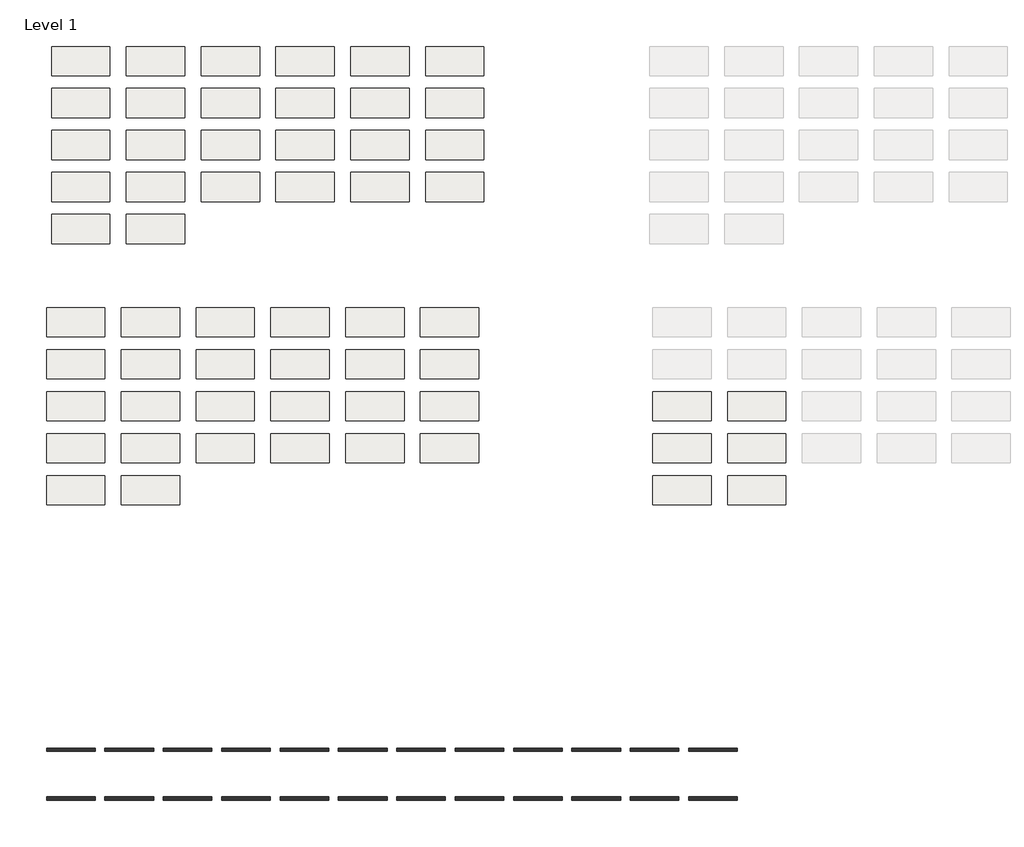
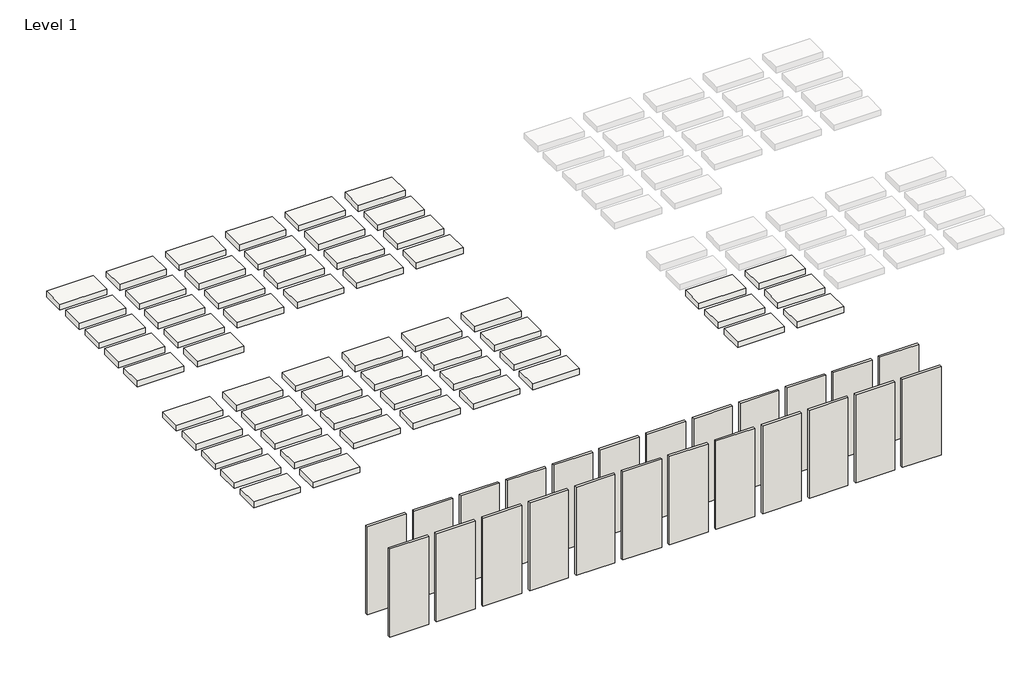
# One storey, part 1 of 3: 58 slabs, 24 walls.
"""IFC4 building model written with IfcOpenShell, lengths in millimetres."""

from ifc_helpers import new_model, si_unit, frame, origin, origin_with_axes, place, context, project, spatial, polyline, outline, extrude, element, save

model = new_model("IFC4")

# Units and contexts
model_context = context("Model", 3, world=origin())
ifc_project = project(units=[si_unit("LENGTHUNIT", "METRE", prefix="MILLI")], contexts=[model_context])

# Site, building, storey
site = spatial("IfcSite", under=ifc_project)
building = spatial("IfcBuilding", under=site)
storey = spatial("IfcBuildingStorey", under=building, Name="Level 1", Elevation=0.0)

# Slabs
placement = place(None, origin())
element("IfcSlab", 1, ObjectType="AEP Span Color Sample", at=placement, inside=storey, context=model_context, shape_type="SweptSolid", body=[
    extrude(outline(polyline([(-4307.8660775, 7212.0976846), (-4917.4660775, 7212.0976846), (-4917.4660775, 7516.8976846), (-4307.8660775, 7516.8976846), (-4307.8660775, 7212.0976846)])), frame((0.0, 0.0, -79.375), z_axis=(0.0, 0.0, 1.0), x_axis=(1.0, 0.0, 0.0)), (0.0, 0.0, 1.0), 79.375),
])
element("IfcSlab", 2, ObjectType="AEP Span Color Sample", at=placement, inside=storey, context=model_context, shape_type="SweptSolid", body=[
    extrude(outline(polyline([(-3526.8160775, 7212.0976846), (-4136.4160775, 7212.0976846), (-4136.4160775, 7516.8976846), (-3526.8160775, 7516.8976846), (-3526.8160775, 7212.0976846)])), frame((0.0, 0.0, -79.375), z_axis=(0.0, 0.0, 1.0), x_axis=(1.0, 0.0, 0.0)), (0.0, 0.0, 1.0), 79.375),
])
element("IfcSlab", 3, ObjectType="AEP Span Color Sample", at=placement, inside=storey, context=model_context, shape_type="SweptSolid", body=[
    extrude(outline(polyline([(-2745.7660775, 7212.0976846), (-3355.3660775, 7212.0976846), (-3355.3660775, 7516.8976846), (-2745.7660775, 7516.8976846), (-2745.7660775, 7212.0976846)])), frame((0.0, 0.0, -79.375), z_axis=(0.0, 0.0, 1.0), x_axis=(1.0, 0.0, 0.0)), (0.0, 0.0, 1.0), 79.375),
])
element("IfcSlab", 4, ObjectType="AEP Span Color Sample", at=placement, inside=storey, context=model_context, shape_type="SweptSolid", body=[
    extrude(outline(polyline([(-1964.7160775, 7212.0976846), (-2574.3160775, 7212.0976846), (-2574.3160775, 7516.8976846), (-1964.7160775, 7516.8976846), (-1964.7160775, 7212.0976846)])), frame((0.0, 0.0, -79.375), z_axis=(0.0, 0.0, 1.0), x_axis=(1.0, 0.0, 0.0)), (0.0, 0.0, 1.0), 79.375),
])
element("IfcSlab", 5, ObjectType="AEP Span Color Sample", at=placement, inside=storey, context=model_context, shape_type="SweptSolid", body=[
    extrude(outline(polyline([(-1183.6660775, 7212.0976846), (-1793.2660775, 7212.0976846), (-1793.2660775, 7516.8976846), (-1183.6660775, 7516.8976846), (-1183.6660775, 7212.0976846)])), frame((0.0, 0.0, -79.375), z_axis=(0.0, 0.0, 1.0), x_axis=(1.0, 0.0, 0.0)), (0.0, 0.0, 1.0), 79.375),
])
element("IfcSlab", 6, ObjectType="AEP Span Color Sample", at=placement, inside=storey, context=model_context, shape_type="SweptSolid", body=[
    extrude(outline(polyline([(-402.6160775, 7212.0976846), (-1012.2160775, 7212.0976846), (-1012.2160775, 7516.8976846), (-402.6160775, 7516.8976846), (-402.6160775, 7212.0976846)])), frame((0.0, 0.0, -79.375), z_axis=(0.0, 0.0, 1.0), x_axis=(1.0, 0.0, 0.0)), (0.0, 0.0, 1.0), 79.375),
])
element("IfcSlab", 7, ObjectType="AEP Span Color Sample", at=placement, inside=storey, context=model_context, shape_type="SweptSolid", body=[
    extrude(outline(polyline([(-4307.8660775, 6773.9476846), (-4917.4660775, 6773.9476846), (-4917.4660775, 7078.7476846), (-4307.8660775, 7078.7476846), (-4307.8660775, 6773.9476846)])), frame((0.0, 0.0, -79.375), z_axis=(0.0, 0.0, 1.0), x_axis=(1.0, 0.0, 0.0)), (0.0, 0.0, 1.0), 79.375),
])
element("IfcSlab", 8, ObjectType="AEP Span Color Sample", at=placement, inside=storey, context=model_context, shape_type="SweptSolid", body=[
    extrude(outline(polyline([(-3526.8160775, 6773.9476846), (-4136.4160775, 6773.9476846), (-4136.4160775, 7078.7476846), (-3526.8160775, 7078.7476846), (-3526.8160775, 6773.9476846)])), frame((0.0, 0.0, -79.375), z_axis=(0.0, 0.0, 1.0), x_axis=(1.0, 0.0, 0.0)), (0.0, 0.0, 1.0), 79.375),
])
element("IfcSlab", 9, ObjectType="AEP Span Color Sample", at=placement, inside=storey, context=model_context, shape_type="SweptSolid", body=[
    extrude(outline(polyline([(-2745.7660775, 6773.9476846), (-3355.3660775, 6773.9476846), (-3355.3660775, 7078.7476846), (-2745.7660775, 7078.7476846), (-2745.7660775, 6773.9476846)])), frame((0.0, 0.0, -79.375), z_axis=(0.0, 0.0, 1.0), x_axis=(1.0, 0.0, 0.0)), (0.0, 0.0, 1.0), 79.375),
])
element("IfcSlab", 10, ObjectType="AEP Span Color Sample", at=placement, inside=storey, context=model_context, shape_type="SweptSolid", body=[
    extrude(outline(polyline([(-1964.7160775, 6773.9476846), (-2574.3160775, 6773.9476846), (-2574.3160775, 7078.7476846), (-1964.7160775, 7078.7476846), (-1964.7160775, 6773.9476846)])), frame((0.0, 0.0, -79.375), z_axis=(0.0, 0.0, 1.0), x_axis=(1.0, 0.0, 0.0)), (0.0, 0.0, 1.0), 79.375),
])
element("IfcSlab", 11, ObjectType="AEP Span Color Sample", at=placement, inside=storey, context=model_context, shape_type="SweptSolid", body=[
    extrude(outline(polyline([(-1183.6660775, 6773.9476846), (-1793.2660775, 6773.9476846), (-1793.2660775, 7078.7476846), (-1183.6660775, 7078.7476846), (-1183.6660775, 6773.9476846)])), frame((0.0, 0.0, -79.375), z_axis=(0.0, 0.0, 1.0), x_axis=(1.0, 0.0, 0.0)), (0.0, 0.0, 1.0), 79.375),
])
element("IfcSlab", 12, ObjectType="AEP Span Color Sample", at=placement, inside=storey, context=model_context, shape_type="SweptSolid", body=[
    extrude(outline(polyline([(-402.6160775, 6773.9476846), (-1012.2160775, 6773.9476846), (-1012.2160775, 7078.7476846), (-402.6160775, 7078.7476846), (-402.6160775, 6773.9476846)])), frame((0.0, 0.0, -79.375), z_axis=(0.0, 0.0, 1.0), x_axis=(1.0, 0.0, 0.0)), (0.0, 0.0, 1.0), 79.375),
])
element("IfcSlab", 13, ObjectType="AEP Span Color Sample", at=placement, inside=storey, context=model_context, shape_type="SweptSolid", body=[
    extrude(outline(polyline([(-4307.8660775, 6335.7976846), (-4917.4660775, 6335.7976846), (-4917.4660775, 6640.5976846), (-4307.8660775, 6640.5976846), (-4307.8660775, 6335.7976846)])), frame((0.0, 0.0, -79.375), z_axis=(0.0, 0.0, 1.0), x_axis=(1.0, 0.0, 0.0)), (0.0, 0.0, 1.0), 79.375),
])
element("IfcSlab", 14, ObjectType="AEP Span Color Sample", at=placement, inside=storey, context=model_context, shape_type="SweptSolid", body=[
    extrude(outline(polyline([(-3526.8160775, 6335.7976846), (-4136.4160775, 6335.7976846), (-4136.4160775, 6640.5976846), (-3526.8160775, 6640.5976846), (-3526.8160775, 6335.7976846)])), frame((0.0, 0.0, -79.375), z_axis=(0.0, 0.0, 1.0), x_axis=(1.0, 0.0, 0.0)), (0.0, 0.0, 1.0), 79.375),
])
element("IfcSlab", 15, ObjectType="AEP Span Color Sample", at=placement, inside=storey, context=model_context, shape_type="SweptSolid", body=[
    extrude(outline(polyline([(-2745.7660775, 6335.7976846), (-3355.3660775, 6335.7976846), (-3355.3660775, 6640.5976846), (-2745.7660775, 6640.5976846), (-2745.7660775, 6335.7976846)])), frame((0.0, 0.0, -79.375), z_axis=(0.0, 0.0, 1.0), x_axis=(1.0, 0.0, 0.0)), (0.0, 0.0, 1.0), 79.375),
])
element("IfcSlab", 16, ObjectType="AEP Span Color Sample", at=placement, inside=storey, context=model_context, shape_type="SweptSolid", body=[
    extrude(outline(polyline([(-1964.7160775, 6335.7976846), (-2574.3160775, 6335.7976846), (-2574.3160775, 6640.5976846), (-1964.7160775, 6640.5976846), (-1964.7160775, 6335.7976846)])), frame((0.0, 0.0, -79.375), z_axis=(0.0, 0.0, 1.0), x_axis=(1.0, 0.0, 0.0)), (0.0, 0.0, 1.0), 79.375),
])
element("IfcSlab", 17, ObjectType="AEP Span Color Sample", at=placement, inside=storey, context=model_context, shape_type="SweptSolid", body=[
    extrude(outline(polyline([(-1183.6660775, 6335.7976846), (-1793.2660775, 6335.7976846), (-1793.2660775, 6640.5976846), (-1183.6660775, 6640.5976846), (-1183.6660775, 6335.7976846)])), frame((0.0, 0.0, -79.375), z_axis=(0.0, 0.0, 1.0), x_axis=(1.0, 0.0, 0.0)), (0.0, 0.0, 1.0), 79.375),
])
element("IfcSlab", 18, ObjectType="AEP Span Color Sample", at=placement, inside=storey, context=model_context, shape_type="SweptSolid", body=[
    extrude(outline(polyline([(-402.6160775, 6335.7976846), (-1012.2160775, 6335.7976846), (-1012.2160775, 6640.5976846), (-402.6160775, 6640.5976846), (-402.6160775, 6335.7976846)])), frame((0.0, 0.0, -79.375), z_axis=(0.0, 0.0, 1.0), x_axis=(1.0, 0.0, 0.0)), (0.0, 0.0, 1.0), 79.375),
])
element("IfcSlab", 19, ObjectType="AEP Span Color Sample", at=placement, inside=storey, context=model_context, shape_type="SweptSolid", body=[
    extrude(outline(polyline([(-4307.8660775, 5897.6476846), (-4917.4660775, 5897.6476846), (-4917.4660775, 6202.4476846), (-4307.8660775, 6202.4476846), (-4307.8660775, 5897.6476846)])), frame((0.0, 0.0, -79.375), z_axis=(0.0, 0.0, 1.0), x_axis=(1.0, 0.0, 0.0)), (0.0, 0.0, 1.0), 79.375),
])
element("IfcSlab", 20, ObjectType="AEP Span Color Sample", at=placement, inside=storey, context=model_context, shape_type="SweptSolid", body=[
    extrude(outline(polyline([(-3526.8160775, 5897.6476846), (-4136.4160775, 5897.6476846), (-4136.4160775, 6202.4476846), (-3526.8160775, 6202.4476846), (-3526.8160775, 5897.6476846)])), frame((0.0, 0.0, -79.375), z_axis=(0.0, 0.0, 1.0), x_axis=(1.0, 0.0, 0.0)), (0.0, 0.0, 1.0), 79.375),
])
element("IfcSlab", 21, ObjectType="AEP Span Color Sample", at=placement, inside=storey, context=model_context, shape_type="SweptSolid", body=[
    extrude(outline(polyline([(-2745.7660775, 5897.6476846), (-3355.3660775, 5897.6476846), (-3355.3660775, 6202.4476846), (-2745.7660775, 6202.4476846), (-2745.7660775, 5897.6476846)])), frame((0.0, 0.0, -79.375), z_axis=(0.0, 0.0, 1.0), x_axis=(1.0, 0.0, 0.0)), (0.0, 0.0, 1.0), 79.375),
])
element("IfcSlab", 22, ObjectType="AEP Span Color Sample", at=placement, inside=storey, context=model_context, shape_type="SweptSolid", body=[
    extrude(outline(polyline([(-1964.7160775, 5897.6476846), (-2574.3160775, 5897.6476846), (-2574.3160775, 6202.4476846), (-1964.7160775, 6202.4476846), (-1964.7160775, 5897.6476846)])), frame((0.0, 0.0, -79.375), z_axis=(0.0, 0.0, 1.0), x_axis=(1.0, 0.0, 0.0)), (0.0, 0.0, 1.0), 79.375),
])
element("IfcSlab", 23, ObjectType="AEP Span Color Sample", at=placement, inside=storey, context=model_context, shape_type="SweptSolid", body=[
    extrude(outline(polyline([(-1183.6660775, 5897.6476846), (-1793.2660775, 5897.6476846), (-1793.2660775, 6202.4476846), (-1183.6660775, 6202.4476846), (-1183.6660775, 5897.6476846)])), frame((0.0, 0.0, -79.375), z_axis=(0.0, 0.0, 1.0), x_axis=(1.0, 0.0, 0.0)), (0.0, 0.0, 1.0), 79.375),
])
element("IfcSlab", 24, ObjectType="AEP Span Color Sample", at=placement, inside=storey, context=model_context, shape_type="SweptSolid", body=[
    extrude(outline(polyline([(-402.6160775, 5897.6476846), (-1012.2160775, 5897.6476846), (-1012.2160775, 6202.4476846), (-402.6160775, 6202.4476846), (-402.6160775, 5897.6476846)])), frame((0.0, 0.0, -79.375), z_axis=(0.0, 0.0, 1.0), x_axis=(1.0, 0.0, 0.0)), (0.0, 0.0, 1.0), 79.375),
])
element("IfcSlab", 25, ObjectType="AEP Span Color Sample", at=placement, inside=storey, context=model_context, shape_type="SweptSolid", body=[
    extrude(outline(polyline([(-4307.8660775, 5459.4976846), (-4917.4660775, 5459.4976846), (-4917.4660775, 5764.2976846), (-4307.8660775, 5764.2976846), (-4307.8660775, 5459.4976846)])), frame((0.0, 0.0, -79.375), z_axis=(0.0, 0.0, 1.0), x_axis=(1.0, 0.0, 0.0)), (0.0, 0.0, 1.0), 79.375),
])
element("IfcSlab", 26, ObjectType="AEP Span Color Sample", at=placement, inside=storey, context=model_context, shape_type="SweptSolid", body=[
    extrude(outline(polyline([(-3526.8160775, 5459.4976846), (-4136.4160775, 5459.4976846), (-4136.4160775, 5764.2976846), (-3526.8160775, 5764.2976846), (-3526.8160775, 5459.4976846)])), frame((0.0, 0.0, -79.375), z_axis=(0.0, 0.0, 1.0), x_axis=(1.0, 0.0, 0.0)), (0.0, 0.0, 1.0), 79.375),
])
element("IfcSlab", 27, ObjectType="AEP Span Color Sample", at=placement, inside=storey, context=model_context, shape_type="SweptSolid", body=[
    extrude(outline(polyline([(1970.7268399, 3607.4993148), (1361.1268399, 3607.4993148), (1361.1268399, 3912.2993148), (1970.7268399, 3912.2993148), (1970.7268399, 3607.4993148)])), frame((0.0, 0.0, -79.375), z_axis=(0.0, 0.0, 1.0), x_axis=(1.0, 0.0, 0.0)), (0.0, 0.0, 1.0), 79.375),
])
element("IfcSlab", 28, ObjectType="AEP Span Color Sample", at=placement, inside=storey, context=model_context, shape_type="SweptSolid", body=[
    extrude(outline(polyline([(2751.7768399, 3607.4993148), (2142.1768399, 3607.4993148), (2142.1768399, 3912.2993148), (2751.7768399, 3912.2993148), (2751.7768399, 3607.4993148)])), frame((0.0, 0.0, -79.375), z_axis=(0.0, 0.0, 1.0), x_axis=(1.0, 0.0, 0.0)), (0.0, 0.0, 1.0), 79.375),
])
element("IfcSlab", 29, ObjectType="AEP Span Color Sample", at=placement, inside=storey, context=model_context, shape_type="SweptSolid", body=[
    extrude(outline(polyline([(1970.7268399, 3169.3493148), (1361.1268399, 3169.3493148), (1361.1268399, 3474.1493148), (1970.7268399, 3474.1493148), (1970.7268399, 3169.3493148)])), frame((0.0, 0.0, -79.375), z_axis=(0.0, 0.0, 1.0), x_axis=(1.0, 0.0, 0.0)), (0.0, 0.0, 1.0), 79.375),
])
element("IfcSlab", 30, ObjectType="AEP Span Color Sample", at=placement, inside=storey, context=model_context, shape_type="SweptSolid", body=[
    extrude(outline(polyline([(2751.7768399, 3169.3493148), (2142.1768399, 3169.3493148), (2142.1768399, 3474.1493148), (2751.7768399, 3474.1493148), (2751.7768399, 3169.3493148)])), frame((0.0, 0.0, -79.375), z_axis=(0.0, 0.0, 1.0), x_axis=(1.0, 0.0, 0.0)), (0.0, 0.0, 1.0), 79.375),
])
element("IfcSlab", 31, ObjectType="AEP Span Color Sample", at=placement, inside=storey, context=model_context, shape_type="SweptSolid", body=[
    extrude(outline(polyline([(1970.7268399, 2731.1993148), (1361.1268399, 2731.1993148), (1361.1268399, 3035.9993148), (1970.7268399, 3035.9993148), (1970.7268399, 2731.1993148)])), frame((0.0, 0.0, -79.375), z_axis=(0.0, 0.0, 1.0), x_axis=(1.0, 0.0, 0.0)), (0.0, 0.0, 1.0), 79.375),
])
element("IfcSlab", 32, ObjectType="AEP Span Color Sample", at=placement, inside=storey, context=model_context, shape_type="SweptSolid", body=[
    extrude(outline(polyline([(2751.7768399, 2731.1993148), (2142.1768399, 2731.1993148), (2142.1768399, 3035.9993148), (2751.7768399, 3035.9993148), (2751.7768399, 2731.1993148)])), frame((0.0, 0.0, -79.375), z_axis=(0.0, 0.0, 1.0), x_axis=(1.0, 0.0, 0.0)), (0.0, 0.0, 1.0), 79.375),
])
element("IfcSlab", 33, ObjectType="AEP Span Color Sample", at=placement, inside=storey, context=model_context, shape_type="SweptSolid", body=[
    extrude(outline(polyline([(-4360.627236, 4483.7993148), (-4970.227236, 4483.7993148), (-4970.227236, 4788.5993148), (-4360.627236, 4788.5993148), (-4360.627236, 4483.7993148)])), frame((0.0, 0.0, -79.375), z_axis=(0.0, 0.0, 1.0), x_axis=(1.0, 0.0, 0.0)), (0.0, 0.0, 1.0), 79.375),
])
element("IfcSlab", 34, ObjectType="AEP Span Color Sample", at=placement, inside=storey, context=model_context, shape_type="SweptSolid", body=[
    extrude(outline(polyline([(-3579.577236, 4483.7993148), (-4189.177236, 4483.7993148), (-4189.177236, 4788.5993148), (-3579.577236, 4788.5993148), (-3579.577236, 4483.7993148)])), frame((0.0, 0.0, -79.375), z_axis=(0.0, 0.0, 1.0), x_axis=(1.0, 0.0, 0.0)), (0.0, 0.0, 1.0), 79.375),
])
element("IfcSlab", 35, ObjectType="AEP Span Color Sample", at=placement, inside=storey, context=model_context, shape_type="SweptSolid", body=[
    extrude(outline(polyline([(-2798.527236, 4483.7993148), (-3408.127236, 4483.7993148), (-3408.127236, 4788.5993148), (-2798.527236, 4788.5993148), (-2798.527236, 4483.7993148)])), frame((0.0, 0.0, -79.375), z_axis=(0.0, 0.0, 1.0), x_axis=(1.0, 0.0, 0.0)), (0.0, 0.0, 1.0), 79.375),
])
element("IfcSlab", 36, ObjectType="AEP Span Color Sample", at=placement, inside=storey, context=model_context, shape_type="SweptSolid", body=[
    extrude(outline(polyline([(-2017.477236, 4483.7993148), (-2627.077236, 4483.7993148), (-2627.077236, 4788.5993148), (-2017.477236, 4788.5993148), (-2017.477236, 4483.7993148)])), frame((0.0, 0.0, -79.375), z_axis=(0.0, 0.0, 1.0), x_axis=(1.0, 0.0, 0.0)), (0.0, 0.0, 1.0), 79.375),
])
element("IfcSlab", 37, ObjectType="AEP Span Color Sample", at=placement, inside=storey, context=model_context, shape_type="SweptSolid", body=[
    extrude(outline(polyline([(-1236.427236, 4483.7993148), (-1846.027236, 4483.7993148), (-1846.027236, 4788.5993148), (-1236.427236, 4788.5993148), (-1236.427236, 4483.7993148)])), frame((0.0, 0.0, -79.375), z_axis=(0.0, 0.0, 1.0), x_axis=(1.0, 0.0, 0.0)), (0.0, 0.0, 1.0), 79.375),
])
element("IfcSlab", 38, ObjectType="AEP Span Color Sample", at=placement, inside=storey, context=model_context, shape_type="SweptSolid", body=[
    extrude(outline(polyline([(-455.377236, 4483.7993148), (-1064.977236, 4483.7993148), (-1064.977236, 4788.5993148), (-455.377236, 4788.5993148), (-455.377236, 4483.7993148)])), frame((0.0, 0.0, -79.375), z_axis=(0.0, 0.0, 1.0), x_axis=(1.0, 0.0, 0.0)), (0.0, 0.0, 1.0), 79.375),
])
element("IfcSlab", 39, ObjectType="AEP Span Color Sample", at=placement, inside=storey, context=model_context, shape_type="SweptSolid", body=[
    extrude(outline(polyline([(-4360.627236, 4045.6493148), (-4970.227236, 4045.6493148), (-4970.227236, 4350.4493148), (-4360.627236, 4350.4493148), (-4360.627236, 4045.6493148)])), frame((0.0, 0.0, -79.375), z_axis=(0.0, 0.0, 1.0), x_axis=(1.0, 0.0, 0.0)), (0.0, 0.0, 1.0), 79.375),
])
element("IfcSlab", 40, ObjectType="AEP Span Color Sample", at=placement, inside=storey, context=model_context, shape_type="SweptSolid", body=[
    extrude(outline(polyline([(-3579.577236, 4045.6493148), (-4189.177236, 4045.6493148), (-4189.177236, 4350.4493148), (-3579.577236, 4350.4493148), (-3579.577236, 4045.6493148)])), frame((0.0, 0.0, -79.375), z_axis=(0.0, 0.0, 1.0), x_axis=(1.0, 0.0, 0.0)), (0.0, 0.0, 1.0), 79.375),
])
element("IfcSlab", 41, ObjectType="AEP Span Color Sample", at=placement, inside=storey, context=model_context, shape_type="SweptSolid", body=[
    extrude(outline(polyline([(-2798.527236, 4045.6493148), (-3408.127236, 4045.6493148), (-3408.127236, 4350.4493148), (-2798.527236, 4350.4493148), (-2798.527236, 4045.6493148)])), frame((0.0, 0.0, -79.375), z_axis=(0.0, 0.0, 1.0), x_axis=(1.0, 0.0, 0.0)), (0.0, 0.0, 1.0), 79.375),
])
element("IfcSlab", 42, ObjectType="AEP Span Color Sample", at=placement, inside=storey, context=model_context, shape_type="SweptSolid", body=[
    extrude(outline(polyline([(-2017.477236, 4045.6493148), (-2627.077236, 4045.6493148), (-2627.077236, 4350.4493148), (-2017.477236, 4350.4493148), (-2017.477236, 4045.6493148)])), frame((0.0, 0.0, -79.375), z_axis=(0.0, 0.0, 1.0), x_axis=(1.0, 0.0, 0.0)), (0.0, 0.0, 1.0), 79.375),
])
element("IfcSlab", 43, ObjectType="AEP Span Color Sample", at=placement, inside=storey, context=model_context, shape_type="SweptSolid", body=[
    extrude(outline(polyline([(-1236.427236, 4045.6493148), (-1846.027236, 4045.6493148), (-1846.027236, 4350.4493148), (-1236.427236, 4350.4493148), (-1236.427236, 4045.6493148)])), frame((0.0, 0.0, -79.375), z_axis=(0.0, 0.0, 1.0), x_axis=(1.0, 0.0, 0.0)), (0.0, 0.0, 1.0), 79.375),
])
element("IfcSlab", 44, ObjectType="AEP Span Color Sample", at=placement, inside=storey, context=model_context, shape_type="SweptSolid", body=[
    extrude(outline(polyline([(-455.377236, 4045.6493148), (-1064.977236, 4045.6493148), (-1064.977236, 4350.4493148), (-455.377236, 4350.4493148), (-455.377236, 4045.6493148)])), frame((0.0, 0.0, -79.375), z_axis=(0.0, 0.0, 1.0), x_axis=(1.0, 0.0, 0.0)), (0.0, 0.0, 1.0), 79.375),
])
element("IfcSlab", 45, ObjectType="AEP Span Color Sample", at=placement, inside=storey, context=model_context, shape_type="SweptSolid", body=[
    extrude(outline(polyline([(-4360.627236, 3607.4993148), (-4970.227236, 3607.4993148), (-4970.227236, 3912.2993148), (-4360.627236, 3912.2993148), (-4360.627236, 3607.4993148)])), frame((0.0, 0.0, -79.375), z_axis=(0.0, 0.0, 1.0), x_axis=(1.0, 0.0, 0.0)), (0.0, 0.0, 1.0), 79.375),
])
element("IfcSlab", 46, ObjectType="AEP Span Color Sample", at=placement, inside=storey, context=model_context, shape_type="SweptSolid", body=[
    extrude(outline(polyline([(-3579.577236, 3607.4993148), (-4189.177236, 3607.4993148), (-4189.177236, 3912.2993148), (-3579.577236, 3912.2993148), (-3579.577236, 3607.4993148)])), frame((0.0, 0.0, -79.375), z_axis=(0.0, 0.0, 1.0), x_axis=(1.0, 0.0, 0.0)), (0.0, 0.0, 1.0), 79.375),
])
element("IfcSlab", 47, ObjectType="AEP Span Color Sample", at=placement, inside=storey, context=model_context, shape_type="SweptSolid", body=[
    extrude(outline(polyline([(-2798.527236, 3607.4993148), (-3408.127236, 3607.4993148), (-3408.127236, 3912.2993148), (-2798.527236, 3912.2993148), (-2798.527236, 3607.4993148)])), frame((0.0, 0.0, -79.375), z_axis=(0.0, 0.0, 1.0), x_axis=(1.0, 0.0, 0.0)), (0.0, 0.0, 1.0), 79.375),
])
element("IfcSlab", 48, ObjectType="AEP Span Color Sample", at=placement, inside=storey, context=model_context, shape_type="SweptSolid", body=[
    extrude(outline(polyline([(-2017.477236, 3607.4993148), (-2627.077236, 3607.4993148), (-2627.077236, 3912.2993148), (-2017.477236, 3912.2993148), (-2017.477236, 3607.4993148)])), frame((0.0, 0.0, -79.375), z_axis=(0.0, 0.0, 1.0), x_axis=(1.0, 0.0, 0.0)), (0.0, 0.0, 1.0), 79.375),
])
element("IfcSlab", 49, ObjectType="AEP Span Color Sample", at=placement, inside=storey, context=model_context, shape_type="SweptSolid", body=[
    extrude(outline(polyline([(-1236.427236, 3607.4993148), (-1846.027236, 3607.4993148), (-1846.027236, 3912.2993148), (-1236.427236, 3912.2993148), (-1236.427236, 3607.4993148)])), frame((0.0, 0.0, -79.375), z_axis=(0.0, 0.0, 1.0), x_axis=(1.0, 0.0, 0.0)), (0.0, 0.0, 1.0), 79.375),
])
element("IfcSlab", 50, ObjectType="AEP Span Color Sample", at=placement, inside=storey, context=model_context, shape_type="SweptSolid", body=[
    extrude(outline(polyline([(-455.377236, 3607.4993148), (-1064.977236, 3607.4993148), (-1064.977236, 3912.2993148), (-455.377236, 3912.2993148), (-455.377236, 3607.4993148)])), frame((0.0, 0.0, -79.375), z_axis=(0.0, 0.0, 1.0), x_axis=(1.0, 0.0, 0.0)), (0.0, 0.0, 1.0), 79.375),
])
element("IfcSlab", 51, ObjectType="AEP Span Color Sample", at=placement, inside=storey, context=model_context, shape_type="SweptSolid", body=[
    extrude(outline(polyline([(-4360.627236, 3169.3493148), (-4970.227236, 3169.3493148), (-4970.227236, 3474.1493148), (-4360.627236, 3474.1493148), (-4360.627236, 3169.3493148)])), frame((0.0, 0.0, -79.375), z_axis=(0.0, 0.0, 1.0), x_axis=(1.0, 0.0, 0.0)), (0.0, 0.0, 1.0), 79.375),
])
element("IfcSlab", 52, ObjectType="AEP Span Color Sample", at=placement, inside=storey, context=model_context, shape_type="SweptSolid", body=[
    extrude(outline(polyline([(-3579.577236, 3169.3493148), (-4189.177236, 3169.3493148), (-4189.177236, 3474.1493148), (-3579.577236, 3474.1493148), (-3579.577236, 3169.3493148)])), frame((0.0, 0.0, -79.375), z_axis=(0.0, 0.0, 1.0), x_axis=(1.0, 0.0, 0.0)), (0.0, 0.0, 1.0), 79.375),
])
element("IfcSlab", 53, ObjectType="AEP Span Color Sample", at=placement, inside=storey, context=model_context, shape_type="SweptSolid", body=[
    extrude(outline(polyline([(-2798.527236, 3169.3493148), (-3408.127236, 3169.3493148), (-3408.127236, 3474.1493148), (-2798.527236, 3474.1493148), (-2798.527236, 3169.3493148)])), frame((0.0, 0.0, -79.375), z_axis=(0.0, 0.0, 1.0), x_axis=(1.0, 0.0, 0.0)), (0.0, 0.0, 1.0), 79.375),
])
element("IfcSlab", 54, ObjectType="AEP Span Color Sample", at=placement, inside=storey, context=model_context, shape_type="SweptSolid", body=[
    extrude(outline(polyline([(-2017.477236, 3169.3493148), (-2627.077236, 3169.3493148), (-2627.077236, 3474.1493148), (-2017.477236, 3474.1493148), (-2017.477236, 3169.3493148)])), frame((0.0, 0.0, -79.375), z_axis=(0.0, 0.0, 1.0), x_axis=(1.0, 0.0, 0.0)), (0.0, 0.0, 1.0), 79.375),
])
element("IfcSlab", 55, ObjectType="AEP Span Color Sample", at=placement, inside=storey, context=model_context, shape_type="SweptSolid", body=[
    extrude(outline(polyline([(-1236.427236, 3169.3493148), (-1846.027236, 3169.3493148), (-1846.027236, 3474.1493148), (-1236.427236, 3474.1493148), (-1236.427236, 3169.3493148)])), frame((0.0, 0.0, -79.375), z_axis=(0.0, 0.0, 1.0), x_axis=(1.0, 0.0, 0.0)), (0.0, 0.0, 1.0), 79.375),
])
element("IfcSlab", 56, ObjectType="AEP Span Color Sample", at=placement, inside=storey, context=model_context, shape_type="SweptSolid", body=[
    extrude(outline(polyline([(-455.377236, 3169.3493148), (-1064.977236, 3169.3493148), (-1064.977236, 3474.1493148), (-455.377236, 3474.1493148), (-455.377236, 3169.3493148)])), frame((0.0, 0.0, -79.375), z_axis=(0.0, 0.0, 1.0), x_axis=(1.0, 0.0, 0.0)), (0.0, 0.0, 1.0), 79.375),
])
element("IfcSlab", 57, ObjectType="AEP Span Color Sample", at=placement, inside=storey, context=model_context, shape_type="SweptSolid", body=[
    extrude(outline(polyline([(-4360.627236, 2731.1993148), (-4970.227236, 2731.1993148), (-4970.227236, 3035.9993148), (-4360.627236, 3035.9993148), (-4360.627236, 2731.1993148)])), frame((0.0, 0.0, -79.375), z_axis=(0.0, 0.0, 1.0), x_axis=(1.0, 0.0, 0.0)), (0.0, 0.0, 1.0), 79.375),
])
element("IfcSlab", 58, ObjectType="AEP Span Color Sample", at=placement, inside=storey, context=model_context, shape_type="SweptSolid", body=[
    extrude(outline(polyline([(-3579.577236, 2731.1993148), (-4189.177236, 2731.1993148), (-4189.177236, 3035.9993148), (-3579.577236, 3035.9993148), (-3579.577236, 2731.1993148)])), frame((0.0, 0.0, -79.375), z_axis=(0.0, 0.0, 1.0), x_axis=(1.0, 0.0, 0.0)), (0.0, 0.0, 1.0), 79.375),
])

# Walls
element("IfcWall", 59, ObjectType="Flex Series 1.2FX10-12c - Vertical - 20GA", at=placement, inside=storey, context=model_context, shape_type="SweptSolid", body=[
    extrude(outline(polyline([(-4462.227236, 155.7564445), (-4970.227236, 155.7564445), (-4970.227236, 187.5064445), (-4462.227236, 187.5064445), (-4462.227236, 155.7564445)])), origin_with_axes(), (0.0, 0.0, 1.0), 1219.2),
])
element("IfcWall", 60, ObjectType="Flex Series 1.2FX10-12c - Vertical - 22GA", at=placement, inside=storey, context=model_context, shape_type="SweptSolid", body=[
    extrude(outline(polyline([(-3852.627236, 155.7564445), (-4360.627236, 155.7564445), (-4360.627236, 187.5064445), (-3852.627236, 187.5064445), (-3852.627236, 155.7564445)])), origin_with_axes(), (0.0, 0.0, 1.0), 1219.2),
])
element("IfcWall", 61, ObjectType="Flex Series 1.2FX10-12c - Vertical - 24GA", at=placement, inside=storey, context=model_context, shape_type="SweptSolid", body=[
    extrude(outline(polyline([(-3243.027236, 155.7564445), (-3751.027236, 155.7564445), (-3751.027236, 187.5064445), (-3243.027236, 187.5064445), (-3243.027236, 155.7564445)])), origin_with_axes(), (0.0, 0.0, 1.0), 1219.2),
])
element("IfcWall", 62, ObjectType="Flex Series 1.2FX20-12c - Vertical - 20GA", at=placement, inside=storey, context=model_context, shape_type="SweptSolid", body=[
    extrude(outline(polyline([(-2633.427236, 155.7564445), (-3141.427236, 155.7564445), (-3141.427236, 187.5064445), (-2633.427236, 187.5064445), (-2633.427236, 155.7564445)])), origin_with_axes(), (0.0, 0.0, 1.0), 1219.2),
])
element("IfcWall", 63, ObjectType="Flex Series 1.2FX20-12c - Vertical - 22GA", at=placement, inside=storey, context=model_context, shape_type="SweptSolid", body=[
    extrude(outline(polyline([(-2023.827236, 155.7564445), (-2531.827236, 155.7564445), (-2531.827236, 187.5064445), (-2023.827236, 187.5064445), (-2023.827236, 155.7564445)])), origin_with_axes(), (0.0, 0.0, 1.0), 1219.2),
])
element("IfcWall", 64, ObjectType="Flex Series 1.2FX20-12c - Vertical - 24GA", at=placement, inside=storey, context=model_context, shape_type="SweptSolid", body=[
    extrude(outline(polyline([(-1414.227236, 155.7564445), (-1922.227236, 155.7564445), (-1922.227236, 187.5064445), (-1414.227236, 187.5064445), (-1414.227236, 155.7564445)])), origin_with_axes(), (0.0, 0.0, 1.0), 1219.2),
])
element("IfcWall", 65, ObjectType="Flex Series 1.2FX30-12c - Vertical - 20GA", at=placement, inside=storey, context=model_context, shape_type="SweptSolid", body=[
    extrude(outline(polyline([(-804.627236, 155.7564445), (-1312.627236, 155.7564445), (-1312.627236, 187.5064445), (-804.627236, 187.5064445), (-804.627236, 155.7564445)])), origin_with_axes(), (0.0, 0.0, 1.0), 1219.2),
])
element("IfcWall", 66, ObjectType="Flex Series 1.2FX30-12c - Vertical - 22GA", at=placement, inside=storey, context=model_context, shape_type="SweptSolid", body=[
    extrude(outline(polyline([(-195.027236, 155.7564445), (-703.027236, 155.7564445), (-703.027236, 187.5064445), (-195.027236, 187.5064445), (-195.027236, 155.7564445)])), origin_with_axes(), (0.0, 0.0, 1.0), 1219.2),
])
element("IfcWall", 67, ObjectType="Flex Series 1.2FX30-12c - Vertical - 24GA", at=placement, inside=storey, context=model_context, shape_type="SweptSolid", body=[
    extrude(outline(polyline([(414.572764, 155.7564445), (-93.427236, 155.7564445), (-93.427236, 187.5064445), (414.572764, 187.5064445), (414.572764, 155.7564445)])), origin_with_axes(), (0.0, 0.0, 1.0), 1219.2),
])
element("IfcWall", 68, ObjectType="Flex Series 1.2FX40-12c - Vertical - 20GA", at=placement, inside=storey, context=model_context, shape_type="SweptSolid", body=[
    extrude(outline(polyline([(1024.172764, 155.7564445), (516.172764, 155.7564445), (516.172764, 187.5064445), (1024.172764, 187.5064445), (1024.172764, 155.7564445)])), origin_with_axes(), (0.0, 0.0, 1.0), 1219.2),
])
element("IfcWall", 69, ObjectType="Flex Series 1.2FX40-12c - Vertical - 22GA", at=placement, inside=storey, context=model_context, shape_type="SweptSolid", body=[
    extrude(outline(polyline([(1633.772764, 155.7564445), (1125.772764, 155.7564445), (1125.772764, 187.5064445), (1633.772764, 187.5064445), (1633.772764, 155.7564445)])), origin_with_axes(), (0.0, 0.0, 1.0), 1219.2),
])
element("IfcWall", 70, ObjectType="Flex Series 1.2FX40-12c - Vertical - 24GA", at=placement, inside=storey, context=model_context, shape_type="SweptSolid", body=[
    extrude(outline(polyline([(2243.372764, 155.7564445), (1735.372764, 155.7564445), (1735.372764, 187.5064445), (2243.372764, 187.5064445), (2243.372764, 155.7564445)])), origin_with_axes(), (0.0, 0.0, 1.0), 1219.2),
])
element("IfcWall", 71, ObjectType="Flex Series 1.2FX10-12c - Horizontal - 20GA", at=placement, inside=storey, context=model_context, shape_type="SweptSolid", body=[
    extrude(outline(polyline([(-4462.227236, -352.2435555), (-4970.227236, -352.2435555), (-4970.227236, -320.4935555), (-4462.227236, -320.4935555), (-4462.227236, -352.2435555)])), origin_with_axes(), (0.0, 0.0, 1.0), 1219.2),
])
element("IfcWall", 72, ObjectType="Flex Series 1.2FX10-12c - Horizontal - 22GA", at=placement, inside=storey, context=model_context, shape_type="SweptSolid", body=[
    extrude(outline(polyline([(-3852.627236, -352.2435555), (-4360.627236, -352.2435555), (-4360.627236, -320.4935555), (-3852.627236, -320.4935555), (-3852.627236, -352.2435555)])), origin_with_axes(), (0.0, 0.0, 1.0), 1219.2),
])
element("IfcWall", 73, ObjectType="Flex Series 1.2FX10-12c - Horizontal - 24GA", at=placement, inside=storey, context=model_context, shape_type="SweptSolid", body=[
    extrude(outline(polyline([(-3243.027236, -352.2435555), (-3751.027236, -352.2435555), (-3751.027236, -320.4935555), (-3243.027236, -320.4935555), (-3243.027236, -352.2435555)])), origin_with_axes(), (0.0, 0.0, 1.0), 1219.2),
])
element("IfcWall", 74, ObjectType="Flex Series 1.2FX20-12c - Horizontal - 20GA", at=placement, inside=storey, context=model_context, shape_type="SweptSolid", body=[
    extrude(outline(polyline([(-2633.427236, -352.2435555), (-3141.427236, -352.2435555), (-3141.427236, -320.4935555), (-2633.427236, -320.4935555), (-2633.427236, -352.2435555)])), origin_with_axes(), (0.0, 0.0, 1.0), 1219.2),
])
element("IfcWall", 75, ObjectType="Flex Series 1.2FX20-12c - Horizontal - 22GA", at=placement, inside=storey, context=model_context, shape_type="SweptSolid", body=[
    extrude(outline(polyline([(-2023.827236, -352.2435555), (-2531.827236, -352.2435555), (-2531.827236, -320.4935555), (-2023.827236, -320.4935555), (-2023.827236, -352.2435555)])), origin_with_axes(), (0.0, 0.0, 1.0), 1219.2),
])
element("IfcWall", 76, ObjectType="Flex Series 1.2FX20-12c - Horizontal - 24GA", at=placement, inside=storey, context=model_context, shape_type="SweptSolid", body=[
    extrude(outline(polyline([(-1414.227236, -352.2435555), (-1922.227236, -352.2435555), (-1922.227236, -320.4935555), (-1414.227236, -320.4935555), (-1414.227236, -352.2435555)])), origin_with_axes(), (0.0, 0.0, 1.0), 1219.2),
])
element("IfcWall", 77, ObjectType="Flex Series 1.2FX30-12c - Horizontal - 20GA", at=placement, inside=storey, context=model_context, shape_type="SweptSolid", body=[
    extrude(outline(polyline([(-804.627236, -352.2435555), (-1312.627236, -352.2435555), (-1312.627236, -320.4935555), (-804.627236, -320.4935555), (-804.627236, -352.2435555)])), origin_with_axes(), (0.0, 0.0, 1.0), 1219.2),
])
element("IfcWall", 78, ObjectType="Flex Series 1.2FX30-12c - Horizontal - 22GA", at=placement, inside=storey, context=model_context, shape_type="SweptSolid", body=[
    extrude(outline(polyline([(-195.027236, -352.2435555), (-703.027236, -352.2435555), (-703.027236, -320.4935555), (-195.027236, -320.4935555), (-195.027236, -352.2435555)])), origin_with_axes(), (0.0, 0.0, 1.0), 1219.2),
])
element("IfcWall", 79, ObjectType="Flex Series 1.2FX30-12c - Horizontal - 24GA", at=placement, inside=storey, context=model_context, shape_type="SweptSolid", body=[
    extrude(outline(polyline([(414.572764, -352.2435555), (-93.427236, -352.2435555), (-93.427236, -320.4935555), (414.572764, -320.4935555), (414.572764, -352.2435555)])), origin_with_axes(), (0.0, 0.0, 1.0), 1219.2),
])
element("IfcWall", 80, ObjectType="Flex Series 1.2FX40-12c - Horizontal - 20GA", at=placement, inside=storey, context=model_context, shape_type="SweptSolid", body=[
    extrude(outline(polyline([(1024.172764, -352.2435555), (516.172764, -352.2435555), (516.172764, -320.4935555), (1024.172764, -320.4935555), (1024.172764, -352.2435555)])), origin_with_axes(), (0.0, 0.0, 1.0), 1219.2),
])
element("IfcWall", 81, ObjectType="Flex Series 1.2FX40-12c - Horizontal - 22GA", at=placement, inside=storey, context=model_context, shape_type="SweptSolid", body=[
    extrude(outline(polyline([(1633.772764, -352.2435555), (1125.772764, -352.2435555), (1125.772764, -320.4935555), (1633.772764, -320.4935555), (1633.772764, -352.2435555)])), origin_with_axes(), (0.0, 0.0, 1.0), 1219.2),
])
element("IfcWall", 82, ObjectType="Flex Series 1.2FX40-12c - Horizontal - 24GA", at=placement, inside=storey, context=model_context, shape_type="SweptSolid", body=[
    extrude(outline(polyline([(2243.372764, -352.2435555), (1735.372764, -352.2435555), (1735.372764, -320.4935555), (2243.372764, -320.4935555), (2243.372764, -352.2435555)])), origin_with_axes(), (0.0, 0.0, 1.0), 1219.2),
])

save(model, "model.ifc")
